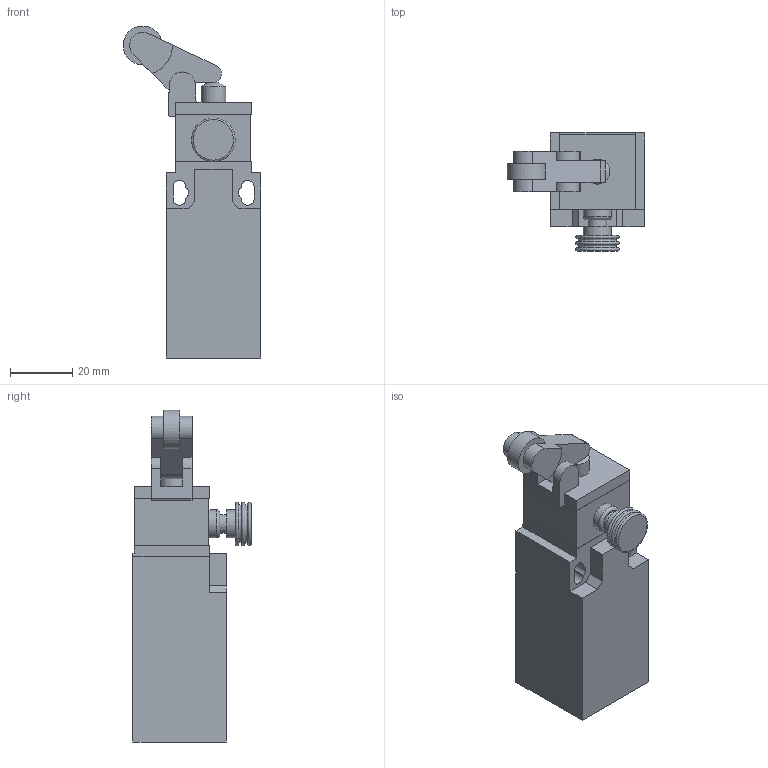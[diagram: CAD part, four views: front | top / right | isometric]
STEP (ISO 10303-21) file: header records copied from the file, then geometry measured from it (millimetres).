
FILE_DESCRIPTION((''),'2;1');
FILE_NAME('C:\Workarea\Disegni\Comepi\Catalogo\Stp\Finecorsa\AP1-R32.stp','2011-08-29T14:08:07',('Paolo'),(''),'Autodesk Inventor 2012','Autodesk Inventor 2012','');
FILE_SCHEMA(('AUTOMOTIVE_DESIGN { 1 0 10303 214 1 1 1 1 }'));
Length unit declared in the file: millimetre
Products named in the file (7): AP1-R32; AP1; R32; T32_1; T32_2; T32_3; R
Assembly tree (6 placements, depth 3):
  AP1-R32
    AP1
    R32
      T32_1
      T32_2
      T32_3
      R
Bounding box: 44.11 x 37.9 x 106.56 mm (x, y, z)
Volume: 64895.6 mm3; surface area: 18271 mm2
Topology: 5 solids, 5 shells, 92 faces, 224 edges, 147 vertices
Faces by surface type: plane 63, cylinder 22, torus 6, sphere 1
Full cylindrical faces by diameter (mm): 6 x1, 8 x2, 9 x2, 20.4 x1
Entity records: 2889 total; most frequent: DIRECTION 473, CARTESIAN_POINT 464, ORIENTED_EDGE 424, EDGE_CURVE 212, VECTOR 161, LINE 161, AXIS2_PLACEMENT_3D 156, VERTEX_POINT 147
